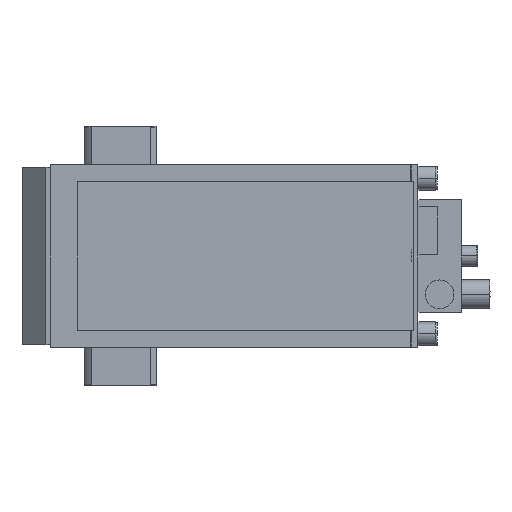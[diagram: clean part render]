
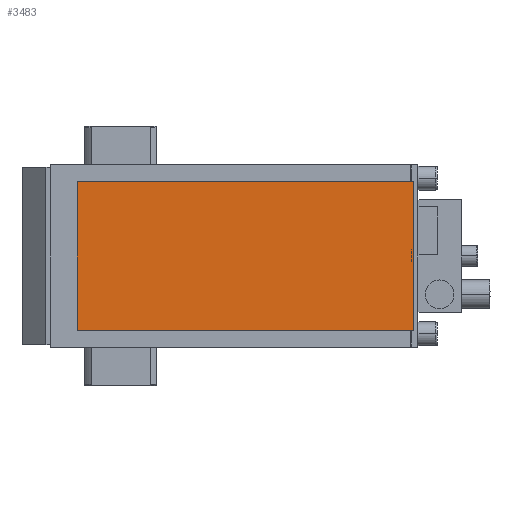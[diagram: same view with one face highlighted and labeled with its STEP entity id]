
A CAD part, left-side view. The second image highlights one B-rep face of the part: STEP entity #3483.
In plain terms, the highlighted planar face has unit normal (-1, 0, 0).
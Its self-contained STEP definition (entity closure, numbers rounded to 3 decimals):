
#178 = LINE ( 'NONE', #8388, #1321 ) ;
#428 = EDGE_CURVE ( 'NONE', #2684, #3685, #4749, .T. ) ;
#493 = EDGE_CURVE ( 'NONE', #3174, #6520, #178, .T. ) ;
#867 = CARTESIAN_POINT ( 'NONE',  ( -402., 18., 31. ) ) ;
#873 = VECTOR ( 'NONE', #4039, 1000. ) ;
#1159 = ORIENTED_EDGE ( 'NONE', *, *, #493, .T. ) ;
#1321 = VECTOR ( 'NONE', #10229, 1000. ) ;
#1405 = LINE ( 'NONE', #1463, #3892 ) ;
#1463 = CARTESIAN_POINT ( 'NONE',  ( -402., -52., -31. ) ) ;
#2684 = VERTEX_POINT ( 'NONE', #867 ) ;
#3005 = DIRECTION ( 'NONE',  ( 0., -1., 0. ) ) ;
#3065 = DIRECTION ( 'NONE',  ( 0., 0., -1. ) ) ;
#3174 = VERTEX_POINT ( 'NONE', #3995 ) ;
#3483 = ADVANCED_FACE ( 'NONE', ( #7180 ), #3939, .T. ) ;
#3685 = VERTEX_POINT ( 'NONE', #9844 ) ;
#3892 = VECTOR ( 'NONE', #3005, 1000. ) ;
#3939 = PLANE ( 'NONE',  #5969 ) ;
#3947 = ORIENTED_EDGE ( 'NONE', *, *, #428, .T. ) ;
#3995 = CARTESIAN_POINT ( 'NONE',  ( -402., -122., -31. ) ) ;
#4039 = DIRECTION ( 'NONE',  ( 0., 1., 0. ) ) ;
#4047 = CARTESIAN_POINT ( 'NONE',  ( -402., 18., 0. ) ) ;
#4197 = LINE ( 'NONE', #4844, #873 ) ;
#4736 = DIRECTION ( 'NONE',  ( 0., 0., 1. ) ) ;
#4749 = LINE ( 'NONE', #4047, #5866 ) ;
#4844 = CARTESIAN_POINT ( 'NONE',  ( -402., -52., 31. ) ) ;
#5649 = EDGE_LOOP ( 'NONE', ( #9808, #1159, #10451, #3947 ) ) ;
#5866 = VECTOR ( 'NONE', #3065, 1000. ) ;
#5969 = AXIS2_PLACEMENT_3D ( 'NONE', #9923, #10587, #4736 ) ;
#6520 = VERTEX_POINT ( 'NONE', #8710 ) ;
#7138 = EDGE_CURVE ( 'NONE', #3685, #3174, #1405, .T. ) ;
#7180 = FACE_OUTER_BOUND ( 'NONE', #5649, .T. ) ;
#7195 = EDGE_CURVE ( 'NONE', #6520, #2684, #4197, .T. ) ;
#8388 = CARTESIAN_POINT ( 'NONE',  ( -402., -122., 0. ) ) ;
#8710 = CARTESIAN_POINT ( 'NONE',  ( -402., -122., 31. ) ) ;
#9808 = ORIENTED_EDGE ( 'NONE', *, *, #7138, .T. ) ;
#9844 = CARTESIAN_POINT ( 'NONE',  ( -402., 18., -31. ) ) ;
#9923 = CARTESIAN_POINT ( 'NONE',  ( -402., 0., 0. ) ) ;
#10229 = DIRECTION ( 'NONE',  ( 0., 0., 1. ) ) ;
#10451 = ORIENTED_EDGE ( 'NONE', *, *, #7195, .T. ) ;
#10587 = DIRECTION ( 'NONE',  ( -1., 0., 0. ) ) ;
